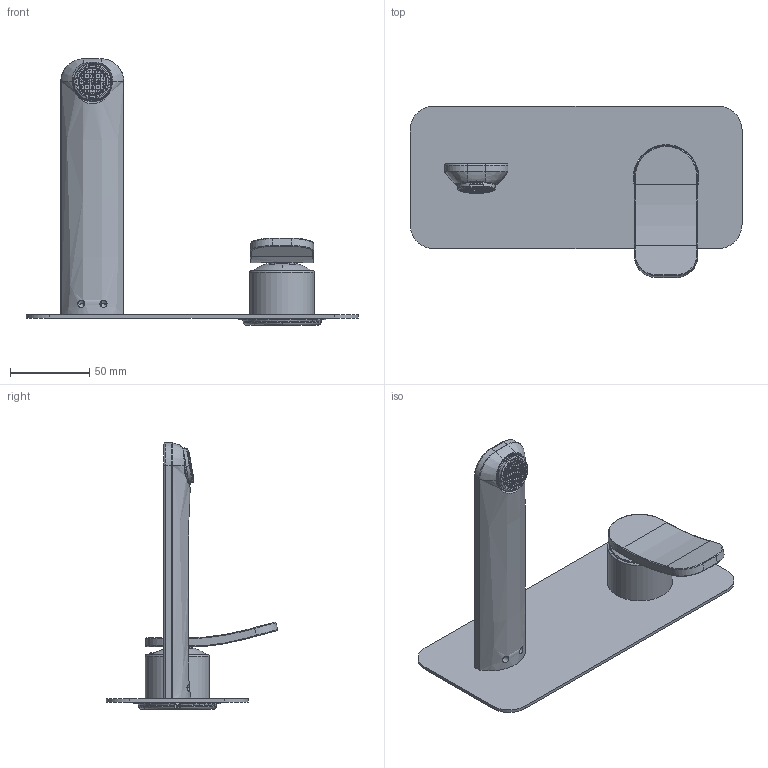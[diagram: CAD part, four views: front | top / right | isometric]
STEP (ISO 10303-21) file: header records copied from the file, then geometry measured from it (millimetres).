
FILE_DESCRIPTION((''),'2;1');
FILE_NAME('3DF_F3821WX5','2023-12-22T11:42:27',('ivanv'),(''),'CREO PARAMETRIC BY PTC INC, 2021184','CREO PARAMETRIC BY PTC INC, 2021184','');
FILE_SCHEMA(('CONFIG_CONTROL_DESIGN'));
Products named in the file (1): 3DF_F3821WX5
Bounding box: 210 x 108.52 x 168.6 mm (x, y, z)
Volume: 132301.1 mm3; surface area: 82968.5 mm2
Topology: 4 solids, 4 shells, 2787 faces, 7101 edges, 4499 vertices
Faces by surface type: bspline 1186, plane 730, cylinder 419, cone 241, torus 164, extrusion 38, sphere 9
Entity records: 115907 total; most frequent: CARTESIAN_POINT 60126, ORIENTED_EDGE 14190, EDGE_CURVE 7095, DIRECTION 7029, VERTEX_POINT 4499, B_SPLINE_CURVE_WITH_KNOTS 4192, EDGE_LOOP 2994, FACE_OUTER_BOUND 2787
